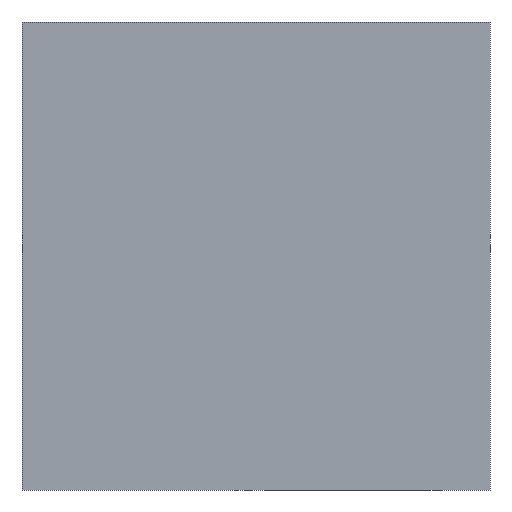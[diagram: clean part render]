
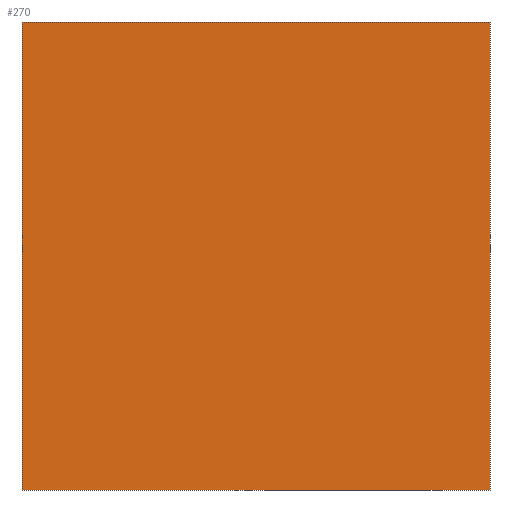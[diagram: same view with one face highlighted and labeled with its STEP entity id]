
A CAD part, front view. The second image highlights one B-rep face of the part: STEP entity #270.
In plain terms, the highlighted planar face has unit normal (0, -1, 0).
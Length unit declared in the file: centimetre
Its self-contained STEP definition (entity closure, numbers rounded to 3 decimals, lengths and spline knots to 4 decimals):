
#35 = CARTESIAN_POINT ( 'NONE',  ( 0., 0., 1000. ) ) ;
#69 = EDGE_CURVE ( 'NONE', #405, #308, #779, .T. ) ;
#85 = DIRECTION ( 'NONE',  ( 0., 0., 1. ) ) ;
#118 = LINE ( 'NONE', #610, #602 ) ;
#143 = DIRECTION ( 'NONE',  ( 0., 1., 0. ) ) ;
#152 = CARTESIAN_POINT ( 'NONE',  ( 1000., 0., 0. ) ) ;
#180 = DIRECTION ( 'NONE',  ( 1., 0., 0. ) ) ;
#212 = VERTEX_POINT ( 'NONE', #657 ) ;
#237 = LINE ( 'NONE', #423, #699 ) ;
#238 = VECTOR ( 'NONE', #680, 100. ) ;
#249 = ORIENTED_EDGE ( 'NONE', *, *, #428, .T. ) ;
#257 = ORIENTED_EDGE ( 'NONE', *, *, #69, .F. ) ;
#270 = ADVANCED_FACE ( 'NONE', ( #576 ), #523, .F. ) ;
#282 = CARTESIAN_POINT ( 'NONE',  ( 1000., 0., 1000. ) ) ;
#308 = VERTEX_POINT ( 'NONE', #152 ) ;
#339 = AXIS2_PLACEMENT_3D ( 'NONE', #35, #143, #85 ) ;
#369 = EDGE_LOOP ( 'NONE', ( #458, #257, #755, #249 ) ) ;
#405 = VERTEX_POINT ( 'NONE', #612 ) ;
#423 = CARTESIAN_POINT ( 'NONE',  ( 0., 0., 1000. ) ) ;
#428 = EDGE_CURVE ( 'NONE', #742, #212, #237, .T. ) ;
#431 = LINE ( 'NONE', #750, #238 ) ;
#458 = ORIENTED_EDGE ( 'NONE', *, *, #609, .T. ) ;
#523 = PLANE ( 'NONE',  #339 ) ;
#529 = EDGE_CURVE ( 'NONE', #742, #405, #118, .T. ) ;
#576 = FACE_OUTER_BOUND ( 'NONE', #369, .T. ) ;
#602 = VECTOR ( 'NONE', #180, 100. ) ;
#605 = DIRECTION ( 'NONE',  ( 0., 0., -1. ) ) ;
#609 = EDGE_CURVE ( 'NONE', #212, #308, #431, .T. ) ;
#610 = CARTESIAN_POINT ( 'NONE',  ( 0., 0., 1000. ) ) ;
#612 = CARTESIAN_POINT ( 'NONE',  ( 1000., 0., 1000. ) ) ;
#650 = CARTESIAN_POINT ( 'NONE',  ( 0., 0., 1000. ) ) ;
#652 = VECTOR ( 'NONE', #769, 100. ) ;
#657 = CARTESIAN_POINT ( 'NONE',  ( 0., 0., 0. ) ) ;
#680 = DIRECTION ( 'NONE',  ( 1., 0., 0. ) ) ;
#699 = VECTOR ( 'NONE', #605, 100. ) ;
#742 = VERTEX_POINT ( 'NONE', #650 ) ;
#750 = CARTESIAN_POINT ( 'NONE',  ( 0., 0., 0. ) ) ;
#755 = ORIENTED_EDGE ( 'NONE', *, *, #529, .F. ) ;
#769 = DIRECTION ( 'NONE',  ( 0., 0., -1. ) ) ;
#779 = LINE ( 'NONE', #282, #652 ) ;
